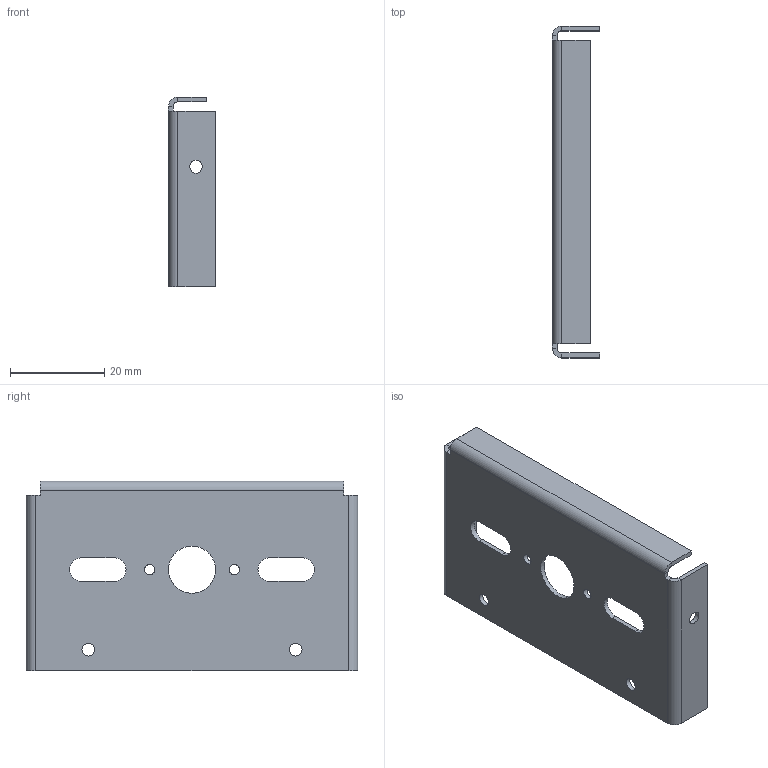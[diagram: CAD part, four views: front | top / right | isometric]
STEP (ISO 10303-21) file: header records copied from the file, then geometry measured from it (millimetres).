
FILE_DESCRIPTION(/* description */ (''),/* implementation_level */ '2;1');
FILE_NAME(/* name */ 'PDB-01-104_Front_Bulkhead_R01.step',/* time_stamp */ '2026-11-24T01:50:37+05:00',/* author */ (''),/* organization */ (''),/* preprocessor_version */ 'ST-DEVELOPER v20.2',/* originating_system */ 'Autodesk Translation Framework v15.17.0.0',/* authorisation */ '');
FILE_SCHEMA (('AUTOMOTIVE_DESIGN { 1 0 10303 214 3 1 1 }'));
Length unit declared in the file: centimetre
Products named in the file (1): 2026-11-24-01-50-37-174
Bounding box: 10 x 70.4 x 40.3 mm (x, y, z)
Volume: 3633.5 mm3; surface area: 7673.2 mm2
Topology: 1 solids, 1 shells, 49 faces, 117 edges, 70 vertices
Faces by surface type: plane 32, cylinder 17
Full cylindrical faces by diameter (mm): 2.2 x2, 2.7 x4, 10 x1
Entity records: 1462 total; most frequent: DIRECTION 251, CARTESIAN_POINT 237, ORIENTED_EDGE 234, EDGE_CURVE 117, AXIS2_PLACEMENT_3D 84, LINE 83, VECTOR 83, VERTEX_POINT 70
